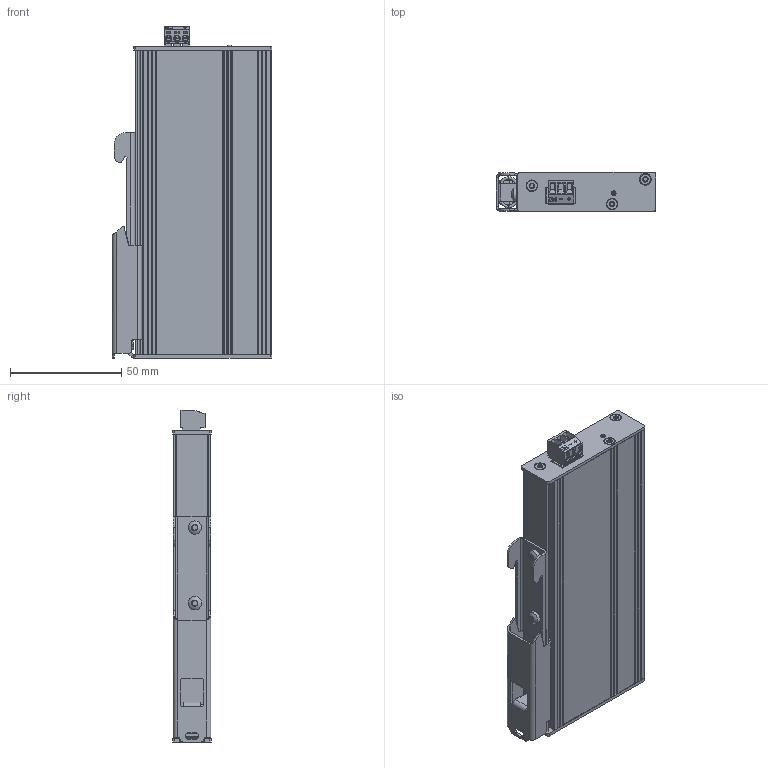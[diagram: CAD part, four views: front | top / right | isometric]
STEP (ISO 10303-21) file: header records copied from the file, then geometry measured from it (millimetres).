
FILE_DESCRIPTION(('TFLEX Exchange Step'),'2;1');
FILE_NAME('TZCA214601A_ZERO-RS8-1401.stp', '2023-09-08T16:47:45+02:00',('User'),('Unknown organisation'),'TFLEX Exchange 2019.0','T-FLEX CAD','Unknown authorisation');
FILE_SCHEMA( ('AUTOMOTIVE_DESIGN { 1 0 10303 214 1 1 1 1 }') );
Length unit declared in the file: millimetre
Products named in the file (1): TZCA02001A_ZERO-8
Bounding box: 71.8 x 17.5 x 149.3 mm (x, y, z)
Volume: 135739.3 mm3; surface area: 41719.6 mm2
Topology: 2 solids, 7 shells, 2324 faces, 6325 edges, 4165 vertices
Faces by surface type: plane 1699, cylinder 435, bspline 131, torus 36, cone 21, sphere 2
Full cylindrical faces by diameter (mm): 1.2 x11, 1.35 x3, 1.6 x1, 1.9 x3, 2 x3, 2.5 x6, 2.7 x6, 2.9 x6, 3 x2, 3.5 x2, 4.7 x6, 6 x2
Entity records: 83971 total; most frequent: CARTESIAN_POINT 24728, ORIENTED_EDGE 12650, DIRECTION 10732, EDGE_CURVE 6325, VECTOR 4274, LINE 4274, VERTEX_POINT 4165, AXIS2_PLACEMENT_3D 3229
